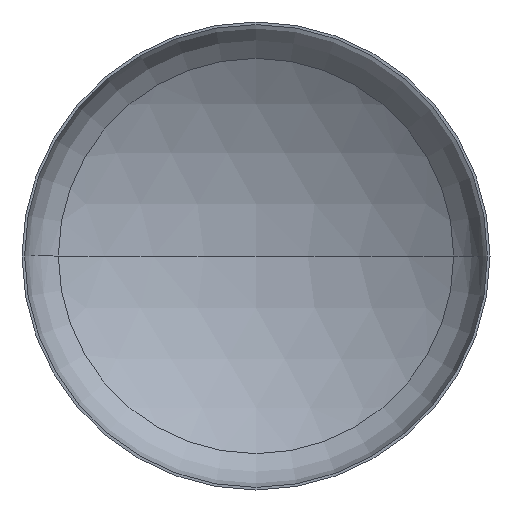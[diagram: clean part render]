
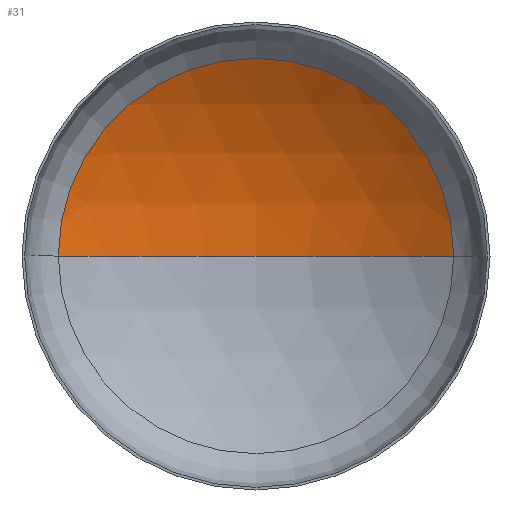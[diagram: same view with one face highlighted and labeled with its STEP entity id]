
A CAD part, front view. The second image highlights one B-rep face of the part: STEP entity #31.
In plain terms, the highlighted spherical face has radius 1440 mm.
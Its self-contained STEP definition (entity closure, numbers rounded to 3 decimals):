
#1 = AXIS2_PLACEMENT_3D ( 'NONE', #233, #102, #356 ) ;
#4 = DIRECTION ( 'NONE',  ( 1., 0., 0. ) ) ;
#7 = DIRECTION ( 'NONE',  ( 0., -1., 0. ) ) ;
#31 = ADVANCED_FACE ( 'NONE', ( #251 ), #162, .F. ) ;
#39 = AXIS2_PLACEMENT_3D ( 'NONE', #166, #336, #358 ) ;
#44 = AXIS2_PLACEMENT_3D ( 'NONE', #274, #7, #4 ) ;
#63 = AXIS2_PLACEMENT_3D ( 'NONE', #283, #237, #279 ) ;
#102 = DIRECTION ( 'NONE',  ( 0., 0., 1. ) ) ;
#103 = EDGE_CURVE ( 'NONE', #177, #106, #411, .T. ) ;
#106 = VERTEX_POINT ( 'NONE', #200 ) ;
#112 = EDGE_CURVE ( 'NONE', #206, #177, #288, .T. ) ;
#114 = ORIENTED_EDGE ( 'NONE', *, *, #103, .T. ) ;
#162 = SPHERICAL_SURFACE ( 'NONE', #63, 1440. ) ;
#166 = CARTESIAN_POINT ( 'NONE',  ( 0., -959.444, 0. ) ) ;
#177 = VERTEX_POINT ( 'NONE', #255 ) ;
#196 = EDGE_LOOP ( 'NONE', ( #316, #290, #114 ) ) ;
#200 = CARTESIAN_POINT ( 'NONE',  ( -760.172, 263.56, 0. ) ) ;
#206 = VERTEX_POINT ( 'NONE', #229 ) ;
#229 = CARTESIAN_POINT ( 'NONE',  ( 0., 480.556, 0. ) ) ;
#233 = CARTESIAN_POINT ( 'NONE',  ( 0., -959.444, 0. ) ) ;
#237 = DIRECTION ( 'NONE',  ( 0., 0., -1. ) ) ;
#251 = FACE_OUTER_BOUND ( 'NONE', #196, .T. ) ;
#255 = CARTESIAN_POINT ( 'NONE',  ( 760.172, 263.56, 0. ) ) ;
#274 = CARTESIAN_POINT ( 'NONE',  ( 0., 263.56, 0. ) ) ;
#279 = DIRECTION ( 'NONE',  ( -1., 0., 0. ) ) ;
#283 = CARTESIAN_POINT ( 'NONE',  ( 0., -959.444, 0. ) ) ;
#288 = CIRCLE ( 'NONE', #39, 1440. ) ;
#290 = ORIENTED_EDGE ( 'NONE', *, *, #112, .T. ) ;
#316 = ORIENTED_EDGE ( 'NONE', *, *, #357, .F. ) ;
#326 = CIRCLE ( 'NONE', #1, 1440. ) ;
#336 = DIRECTION ( 'NONE',  ( 0., 0., -1. ) ) ;
#356 = DIRECTION ( 'NONE',  ( 1., 0., 0. ) ) ;
#357 = EDGE_CURVE ( 'NONE', #206, #106, #326, .T. ) ;
#358 = DIRECTION ( 'NONE',  ( -1., 0., 0. ) ) ;
#411 = CIRCLE ( 'NONE', #44, 760.172 ) ;
